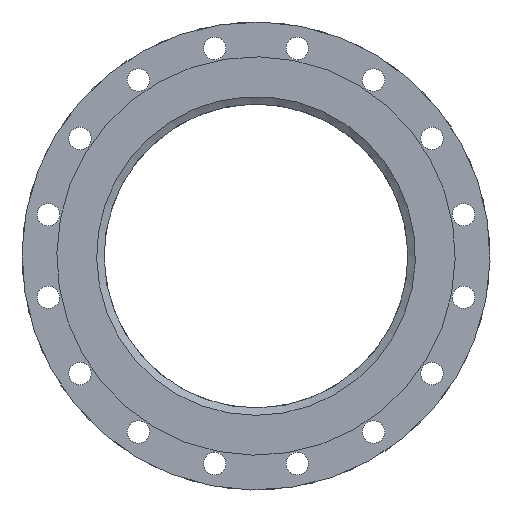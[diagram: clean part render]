
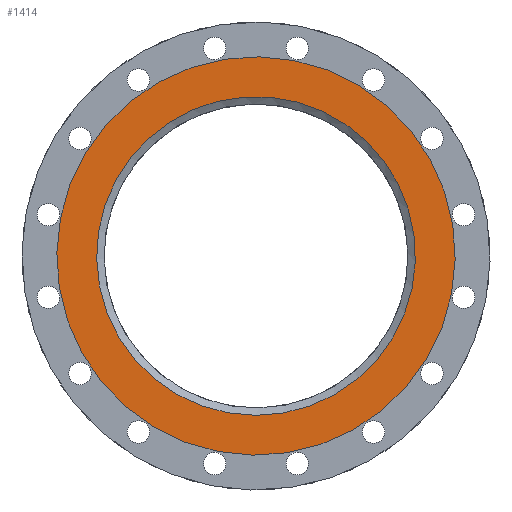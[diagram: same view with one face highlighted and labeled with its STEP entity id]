
A CAD part, front view. The second image highlights one B-rep face of the part: STEP entity #1414.
In plain terms, the highlighted planar face has unit normal (0, -1, 0).
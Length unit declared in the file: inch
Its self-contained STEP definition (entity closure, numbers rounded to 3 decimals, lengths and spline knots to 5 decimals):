
#45=PLANE('',#1591);
#176=FACE_BOUND('',#479,.T.);
#273=FACE_OUTER_BOUND('',#478,.T.);
#478=EDGE_LOOP('',(#1123));
#479=EDGE_LOOP('',(#1124));
#660=CIRCLE('',#1588,10.);
#662=CIRCLE('',#1592,8.);
#789=VERTEX_POINT('',#2345);
#791=VERTEX_POINT('',#2351);
#918=EDGE_CURVE('',#789,#789,#660,.T.);
#920=EDGE_CURVE('',#791,#791,#662,.T.);
#1123=ORIENTED_EDGE('',*,*,#918,.T.);
#1124=ORIENTED_EDGE('',*,*,#920,.T.);
#1414=ADVANCED_FACE('',(#273,#176),#45,.T.);
#1588=AXIS2_PLACEMENT_3D('',#2346,#1935,#1936);
#1591=AXIS2_PLACEMENT_3D('',#2350,#1941,#1942);
#1592=AXIS2_PLACEMENT_3D('',#2352,#1943,#1944);
#1935=DIRECTION('center_axis',(0.,-1.,0.));
#1936=DIRECTION('ref_axis',(-0.857,0.,0.515));
#1941=DIRECTION('center_axis',(0.,-1.,0.));
#1942=DIRECTION('ref_axis',(-0.857,0.,0.515));
#1943=DIRECTION('center_axis',(0.,1.,0.));
#1944=DIRECTION('ref_axis',(0.155,0.,0.988));
#2345=CARTESIAN_POINT('',(8.57434,0.,-5.14593));
#2346=CARTESIAN_POINT('Origin',(0.,0.,
0.));
#2350=CARTESIAN_POINT('Origin',(0.,0.,
0.));
#2351=CARTESIAN_POINT('',(6.85947,0.,-4.11675));
#2352=CARTESIAN_POINT('Origin',(0.,0.,
0.));
